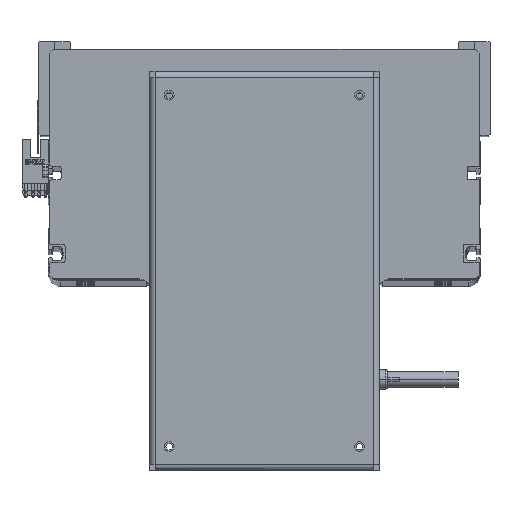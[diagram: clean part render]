
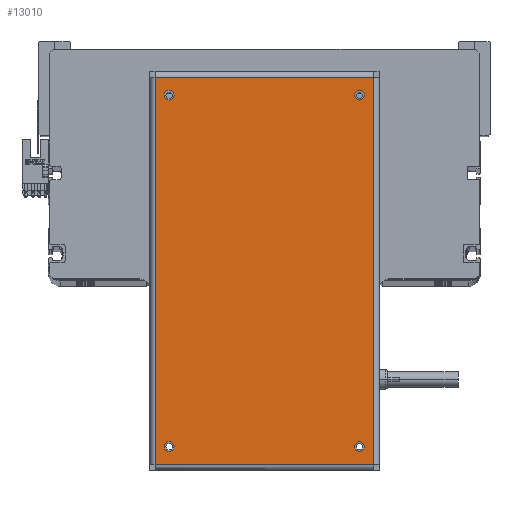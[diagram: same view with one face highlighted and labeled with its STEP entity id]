
A CAD part, top view. The second image highlights one B-rep face of the part: STEP entity #13010.
In plain terms, the highlighted planar face has unit normal (0, 0, 1).
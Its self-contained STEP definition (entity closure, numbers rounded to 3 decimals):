
#118 = VERTEX_POINT ( 'NONE', #32430 ) ;
#385 = CIRCLE ( 'NONE', #8804, 2.5 ) ;
#705 = DIRECTION ( 'NONE',  ( 0., 1., 0. ) ) ;
#707 = CARTESIAN_POINT ( 'NONE',  ( 98.75, 58.5, 0. ) ) ;
#738 = FACE_BOUND ( 'NONE', #27225, .T. ) ;
#1242 = ORIENTED_EDGE ( 'NONE', *, *, #3261, .F. ) ;
#1490 = DIRECTION ( 'NONE',  ( 1., 0., 0. ) ) ;
#1559 = CARTESIAN_POINT ( 'NONE',  ( 89.55, -48.5, 0. ) ) ;
#1997 = EDGE_CURVE ( 'NONE', #19148, #12979, #17368, .T. ) ;
#2179 = CARTESIAN_POINT ( 'NONE',  ( 92.05, -48.5, 0. ) ) ;
#2457 = ORIENTED_EDGE ( 'NONE', *, *, #24842, .T. ) ;
#2764 = DIRECTION ( 'NONE',  ( 1., 0., 0. ) ) ;
#2863 = CARTESIAN_POINT ( 'NONE',  ( -87.05, 48.5, 0. ) ) ;
#3090 = ORIENTED_EDGE ( 'NONE', *, *, #1997, .F. ) ;
#3128 = DIRECTION ( 'NONE',  ( 1., 0., 0. ) ) ;
#3194 = CARTESIAN_POINT ( 'NONE',  ( -89.55, 48.5, 0. ) ) ;
#3261 = EDGE_CURVE ( 'NONE', #38648, #25759, #26556, .T. ) ;
#3329 = DIRECTION ( 'NONE',  ( 0., 0., 1. ) ) ;
#3708 = VERTEX_POINT ( 'NONE', #29289 ) ;
#3836 = LINE ( 'NONE', #34490, #23472 ) ;
#4314 = CARTESIAN_POINT ( 'NONE',  ( -92.05, 48.5, 0. ) ) ;
#4491 = ORIENTED_EDGE ( 'NONE', *, *, #30592, .F. ) ;
#4646 = VERTEX_POINT ( 'NONE', #33829 ) ;
#4979 = CIRCLE ( 'NONE', #42507, 2.5 ) ;
#5778 = ORIENTED_EDGE ( 'NONE', *, *, #41794, .T. ) ;
#5939 = VECTOR ( 'NONE', #21213, 1000. ) ;
#6485 = DIRECTION ( 'NONE',  ( 0., 0., 1. ) ) ;
#7171 = AXIS2_PLACEMENT_3D ( 'NONE', #1559, #31566, #24664 ) ;
#7319 = VERTEX_POINT ( 'NONE', #7473 ) ;
#7473 = CARTESIAN_POINT ( 'NONE',  ( 87.05, -48.5, 0. ) ) ;
#7492 = PLANE ( 'NONE',  #15453 ) ;
#7999 = CIRCLE ( 'NONE', #27575, 2.5 ) ;
#8804 = AXIS2_PLACEMENT_3D ( 'NONE', #31496, #37739, #1490 ) ;
#10232 = EDGE_LOOP ( 'NONE', ( #1242, #32138 ) ) ;
#10554 = EDGE_CURVE ( 'NONE', #22214, #3708, #4979, .T. ) ;
#12274 = EDGE_CURVE ( 'NONE', #3708, #22214, #21450, .T. ) ;
#12725 = EDGE_LOOP ( 'NONE', ( #41870, #5778, #2457, #36217 ) ) ;
#12979 = VERTEX_POINT ( 'NONE', #4314 ) ;
#13010 = ADVANCED_FACE ( 'NONE', ( #25517, #23998, #738, #34839, #25008 ), #7492, .F. ) ;
#13177 = ORIENTED_EDGE ( 'NONE', *, *, #10554, .F. ) ;
#13352 = ORIENTED_EDGE ( 'NONE', *, *, #39791, .F. ) ;
#13837 = DIRECTION ( 'NONE',  ( -1., 0., 0. ) ) ;
#13984 = CARTESIAN_POINT ( 'NONE',  ( 92.05, 48.5, 0. ) ) ;
#14264 = VERTEX_POINT ( 'NONE', #2179 ) ;
#14926 = VECTOR ( 'NONE', #17223, 1000. ) ;
#15453 = AXIS2_PLACEMENT_3D ( 'NONE', #707, #23669, #13837 ) ;
#16235 = EDGE_CURVE ( 'NONE', #7319, #14264, #28909, .T. ) ;
#16837 = EDGE_LOOP ( 'NONE', ( #3090, #4491 ) ) ;
#17223 = DIRECTION ( 'NONE',  ( 0., -1., 0. ) ) ;
#17368 = CIRCLE ( 'NONE', #18184, 2.5 ) ;
#17633 = CARTESIAN_POINT ( 'NONE',  ( -87.05, -48.5, 0. ) ) ;
#18184 = AXIS2_PLACEMENT_3D ( 'NONE', #3194, #6485, #36547 ) ;
#18427 = CARTESIAN_POINT ( 'NONE',  ( -92.05, -48.5, 0. ) ) ;
#19148 = VERTEX_POINT ( 'NONE', #2863 ) ;
#19579 = CARTESIAN_POINT ( 'NONE',  ( -89.55, -48.5, 0. ) ) ;
#19673 = ORIENTED_EDGE ( 'NONE', *, *, #12274, .F. ) ;
#21213 = DIRECTION ( 'NONE',  ( 1., 0., 0. ) ) ;
#21450 = CIRCLE ( 'NONE', #33137, 2.5 ) ;
#22214 = VERTEX_POINT ( 'NONE', #13984 ) ;
#23033 = DIRECTION ( 'NONE',  ( 0., 0., 1. ) ) ;
#23104 = CARTESIAN_POINT ( 'NONE',  ( -89.55, -48.5, 0. ) ) ;
#23472 = VECTOR ( 'NONE', #31150, 1000. ) ;
#23634 = DIRECTION ( 'NONE',  ( 1., 0., 0. ) ) ;
#23669 = DIRECTION ( 'NONE',  ( 0., 0., -1. ) ) ;
#23998 = FACE_BOUND ( 'NONE', #16837, .T. ) ;
#24664 = DIRECTION ( 'NONE',  ( 1., 0., 0. ) ) ;
#24842 = EDGE_CURVE ( 'NONE', #4646, #25828, #25006, .T. ) ;
#24862 = EDGE_CURVE ( 'NONE', #25828, #25738, #3836, .T. ) ;
#24938 = CARTESIAN_POINT ( 'NONE',  ( 98.65, 55.6, 0. ) ) ;
#25006 = LINE ( 'NONE', #30600, #34341 ) ;
#25008 = FACE_OUTER_BOUND ( 'NONE', #12725, .T. ) ;
#25517 = FACE_BOUND ( 'NONE', #10232, .T. ) ;
#25738 = VERTEX_POINT ( 'NONE', #28096 ) ;
#25759 = VERTEX_POINT ( 'NONE', #18427 ) ;
#25828 = VERTEX_POINT ( 'NONE', #24938 ) ;
#26556 = CIRCLE ( 'NONE', #27589, 2.5 ) ;
#26598 = DIRECTION ( 'NONE',  ( 0., 0., 1. ) ) ;
#27225 = EDGE_LOOP ( 'NONE', ( #13352, #37612 ) ) ;
#27459 = CARTESIAN_POINT ( 'NONE',  ( -98.65, 55.6, 0. ) ) ;
#27575 = AXIS2_PLACEMENT_3D ( 'NONE', #36279, #26598, #29900 ) ;
#27589 = AXIS2_PLACEMENT_3D ( 'NONE', #19579, #23033, #3128 ) ;
#28096 = CARTESIAN_POINT ( 'NONE',  ( -98.65, 55.6, 0. ) ) ;
#28299 = DIRECTION ( 'NONE',  ( 0., 0., 1. ) ) ;
#28909 = CIRCLE ( 'NONE', #7171, 2.5 ) ;
#29289 = CARTESIAN_POINT ( 'NONE',  ( 87.05, 48.5, 0. ) ) ;
#29900 = DIRECTION ( 'NONE',  ( 1., 0., 0. ) ) ;
#30114 = DIRECTION ( 'NONE',  ( 0., 0., 1. ) ) ;
#30592 = EDGE_CURVE ( 'NONE', #12979, #19148, #7999, .T. ) ;
#30600 = CARTESIAN_POINT ( 'NONE',  ( 98.65, -55.6, 0. ) ) ;
#30756 = CARTESIAN_POINT ( 'NONE',  ( -98.75, -55.6, 0. ) ) ;
#31150 = DIRECTION ( 'NONE',  ( -1., 0., 0. ) ) ;
#31496 = CARTESIAN_POINT ( 'NONE',  ( 89.55, -48.5, 0. ) ) ;
#31566 = DIRECTION ( 'NONE',  ( 0., 0., 1. ) ) ;
#32026 = CARTESIAN_POINT ( 'NONE',  ( 89.55, 48.5, 0. ) ) ;
#32138 = ORIENTED_EDGE ( 'NONE', *, *, #39990, .F. ) ;
#32169 = DIRECTION ( 'NONE',  ( 1., 0., 0. ) ) ;
#32430 = CARTESIAN_POINT ( 'NONE',  ( -98.65, -55.6, 0. ) ) ;
#33132 = CARTESIAN_POINT ( 'NONE',  ( 89.55, 48.5, 0. ) ) ;
#33137 = AXIS2_PLACEMENT_3D ( 'NONE', #33132, #30114, #23634 ) ;
#33829 = CARTESIAN_POINT ( 'NONE',  ( 98.65, -55.6, 0. ) ) ;
#33921 = EDGE_LOOP ( 'NONE', ( #13177, #19673 ) ) ;
#34341 = VECTOR ( 'NONE', #705, 1000. ) ;
#34490 = CARTESIAN_POINT ( 'NONE',  ( 98.75, 55.6, 0. ) ) ;
#34839 = FACE_BOUND ( 'NONE', #33921, .T. ) ;
#36217 = ORIENTED_EDGE ( 'NONE', *, *, #24862, .T. ) ;
#36279 = CARTESIAN_POINT ( 'NONE',  ( -89.55, 48.5, 0. ) ) ;
#36547 = DIRECTION ( 'NONE',  ( 1., 0., 0. ) ) ;
#36860 = EDGE_CURVE ( 'NONE', #25738, #118, #42287, .T. ) ;
#36963 = LINE ( 'NONE', #30756, #5939 ) ;
#37612 = ORIENTED_EDGE ( 'NONE', *, *, #16235, .F. ) ;
#37739 = DIRECTION ( 'NONE',  ( 0., 0., 1. ) ) ;
#38648 = VERTEX_POINT ( 'NONE', #17633 ) ;
#39791 = EDGE_CURVE ( 'NONE', #14264, #7319, #385, .T. ) ;
#39990 = EDGE_CURVE ( 'NONE', #25759, #38648, #41735, .T. ) ;
#41735 = CIRCLE ( 'NONE', #42800, 2.5 ) ;
#41794 = EDGE_CURVE ( 'NONE', #118, #4646, #36963, .T. ) ;
#41870 = ORIENTED_EDGE ( 'NONE', *, *, #36860, .T. ) ;
#42287 = LINE ( 'NONE', #27459, #14926 ) ;
#42507 = AXIS2_PLACEMENT_3D ( 'NONE', #32026, #28299, #32169 ) ;
#42800 = AXIS2_PLACEMENT_3D ( 'NONE', #23104, #3329, #2764 ) ;
